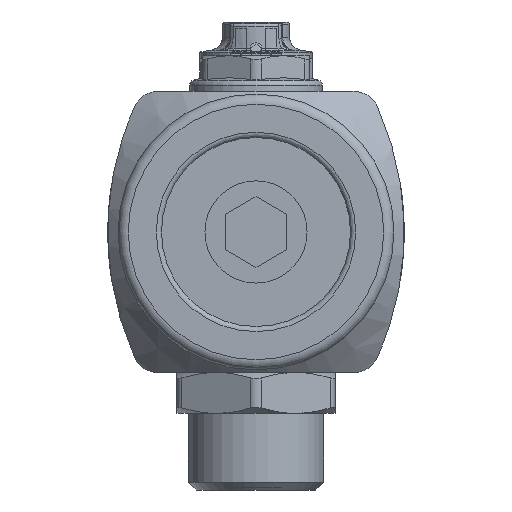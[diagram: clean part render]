
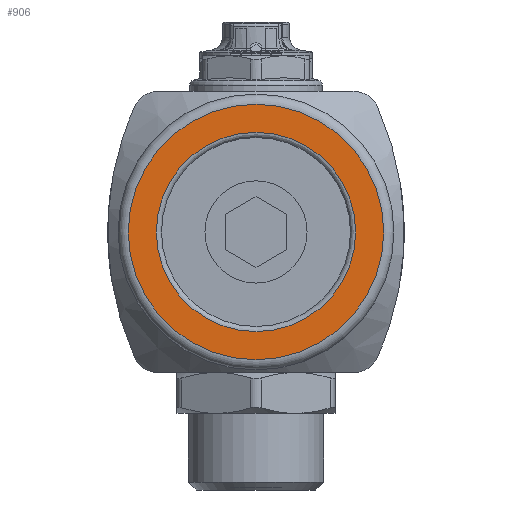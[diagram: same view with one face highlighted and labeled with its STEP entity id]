
A CAD part, front view. The second image highlights one B-rep face of the part: STEP entity #906.
In plain terms, the highlighted planar face has unit normal (0, -1, 0).
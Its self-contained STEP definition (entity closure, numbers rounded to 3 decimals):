
#906=ADVANCED_FACE('',(#8711,#8713),#8715,.F.);
#8711=FACE_BOUND('',#8712,.T.);
#8712=EDGE_LOOP('',(#14076));
#8713=FACE_BOUND('',#8714,.T.);
#8714=EDGE_LOOP('',(#14077));
#8715=PLANE('',#8716);
#8716=AXIS2_PLACEMENT_3D('',#8717,#8718,#8719);
#8717=CARTESIAN_POINT('',(0.,-354.,0.));
#8718=DIRECTION('',(0.,1.,0.));
#8719=DIRECTION('',(-1.,0.,0.));
#14076=ORIENTED_EDGE('',*,*,#16967,.F.);
#14077=ORIENTED_EDGE('',*,*,#16987,.T.);
#16967=EDGE_CURVE('',#20777,#20777,#20778,.T.);
#16987=EDGE_CURVE('',#20817,#20817,#20818,.F.);
#20777=VERTEX_POINT('',#51354);
#20778=CIRCLE('',#51355,25.);
#20817=VERTEX_POINT('',#51444);
#20818=CIRCLE('',#51445,19.5);
#51354=CARTESIAN_POINT('',(-25.,-354.,0.));
#51355=AXIS2_PLACEMENT_3D('',#51356,#51357,#51358);
#51356=CARTESIAN_POINT('',(0.,-354.,0.));
#51357=DIRECTION('',(0.,1.,0.));
#51358=DIRECTION('',(-1.,0.,0.));
#51444=CARTESIAN_POINT('',(19.5,-354.,0.));
#51445=AXIS2_PLACEMENT_3D('',#51446,#51447,#51448);
#51446=CARTESIAN_POINT('',(0.,-354.,0.));
#51447=DIRECTION('',(0.,-1.,0.));
#51448=DIRECTION('',(1.,0.,0.));
